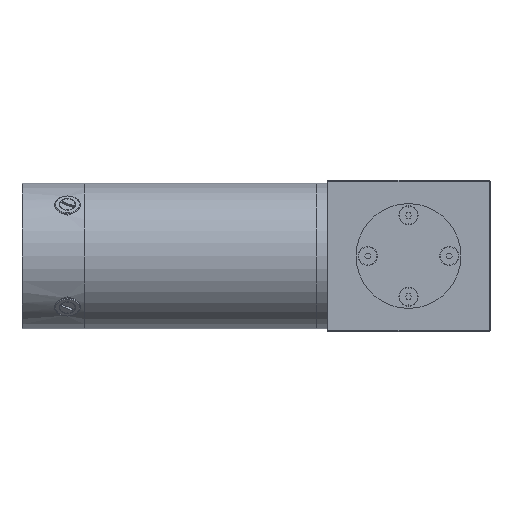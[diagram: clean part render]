
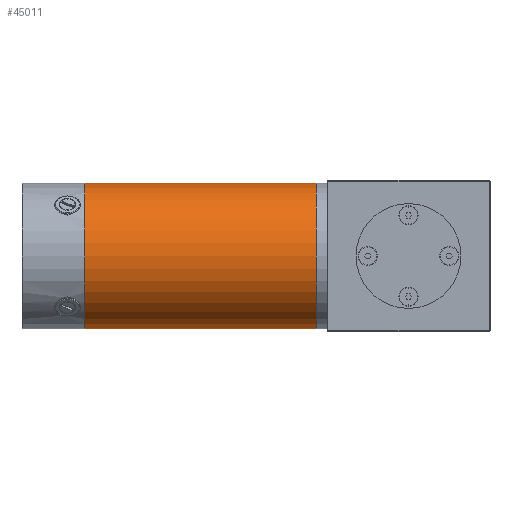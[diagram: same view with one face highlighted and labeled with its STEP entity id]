
A CAD part, left-side view. The second image highlights one B-rep face of the part: STEP entity #45011.
In plain terms, the highlighted cylindrical face has radius 39.685 mm (diameter 79.37 mm), a partial arc.
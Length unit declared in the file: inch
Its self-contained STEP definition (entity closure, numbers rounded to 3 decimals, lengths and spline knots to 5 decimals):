
#2060 = AXIS2_PLACEMENT_3D ( 'NONE', #21152, #43504, #2356 ) ;
#2210 = LINE ( 'NONE', #24323, #33809 ) ;
#2356 = DIRECTION ( 'NONE',  ( 0., 0., 1. ) ) ;
#9767 = DIRECTION ( 'NONE',  ( 0., 1., 0. ) ) ;
#13008 = CARTESIAN_POINT ( 'NONE',  ( 9.26851, 3.73622, 0.0626 ) ) ;
#13666 = CARTESIAN_POINT ( 'NONE',  ( 9.26851, 3.73622, 3.1874 ) ) ;
#14917 = DIRECTION ( 'NONE',  ( 0., -1., 0. ) ) ;
#16122 = DIRECTION ( 'NONE',  ( 0., -1., 0. ) ) ;
#20998 = DIRECTION ( 'NONE',  ( 0., 0., 1. ) ) ;
#21075 = VERTEX_POINT ( 'NONE', #53820 ) ;
#21152 = CARTESIAN_POINT ( 'NONE',  ( 9.26851, 8.7, 1.625 ) ) ;
#21837 = ORIENTED_EDGE ( 'NONE', *, *, #26667, .T. ) ;
#22543 = ORIENTED_EDGE ( 'NONE', *, *, #43205, .T. ) ;
#24323 = CARTESIAN_POINT ( 'NONE',  ( 9.26851, 19695.08937, 0.0626 ) ) ;
#25444 = DIRECTION ( 'NONE',  ( 0., -1., 0. ) ) ;
#26667 = EDGE_CURVE ( 'NONE', #21075, #27587, #2210, .T. ) ;
#27400 = ORIENTED_EDGE ( 'NONE', *, *, #51954, .F. ) ;
#27587 = VERTEX_POINT ( 'NONE', #13008 ) ;
#28634 = VECTOR ( 'NONE', #25444, 39.37008 ) ;
#30724 = AXIS2_PLACEMENT_3D ( 'NONE', #33802, #16122, #20998 ) ;
#31377 = ORIENTED_EDGE ( 'NONE', *, *, #33375, .T. ) ;
#33375 = EDGE_CURVE ( 'NONE', #27587, #47284, #50113, .T. ) ;
#33802 = CARTESIAN_POINT ( 'NONE',  ( 9.26851, 19695.08937, 1.625 ) ) ;
#33809 = VECTOR ( 'NONE', #14917, 39.37008 ) ;
#36634 = CARTESIAN_POINT ( 'NONE',  ( 9.26851, 3.73622, 1.625 ) ) ;
#37780 = AXIS2_PLACEMENT_3D ( 'NONE', #36634, #9767, #41138 ) ;
#38706 = CARTESIAN_POINT ( 'NONE',  ( 9.26851, 8.7, 3.1874 ) ) ;
#41138 = DIRECTION ( 'NONE',  ( 0., 0., -1. ) ) ;
#43205 = EDGE_CURVE ( 'NONE', #49993, #21075, #47743, .T. ) ;
#43504 = DIRECTION ( 'NONE',  ( 0., -1., 0. ) ) ;
#43685 = CARTESIAN_POINT ( 'NONE',  ( 9.26851, 19695.08937, 3.1874 ) ) ;
#44870 = CYLINDRICAL_SURFACE ( 'NONE', #30724, 1.5624 ) ;
#45011 = ADVANCED_FACE ( 'NONE', ( #56674 ), #44870, .T. ) ;
#47284 = VERTEX_POINT ( 'NONE', #13666 ) ;
#47743 = CIRCLE ( 'NONE', #2060, 1.5624 ) ;
#49993 = VERTEX_POINT ( 'NONE', #38706 ) ;
#50113 = CIRCLE ( 'NONE', #37780, 1.5624 ) ;
#51954 = EDGE_CURVE ( 'NONE', #49993, #47284, #55228, .T. ) ;
#52112 = EDGE_LOOP ( 'NONE', ( #22543, #21837, #31377, #27400 ) ) ;
#53820 = CARTESIAN_POINT ( 'NONE',  ( 9.26851, 8.7, 0.0626 ) ) ;
#55228 = LINE ( 'NONE', #43685, #28634 ) ;
#56674 = FACE_OUTER_BOUND ( 'NONE', #52112, .T. ) ;
